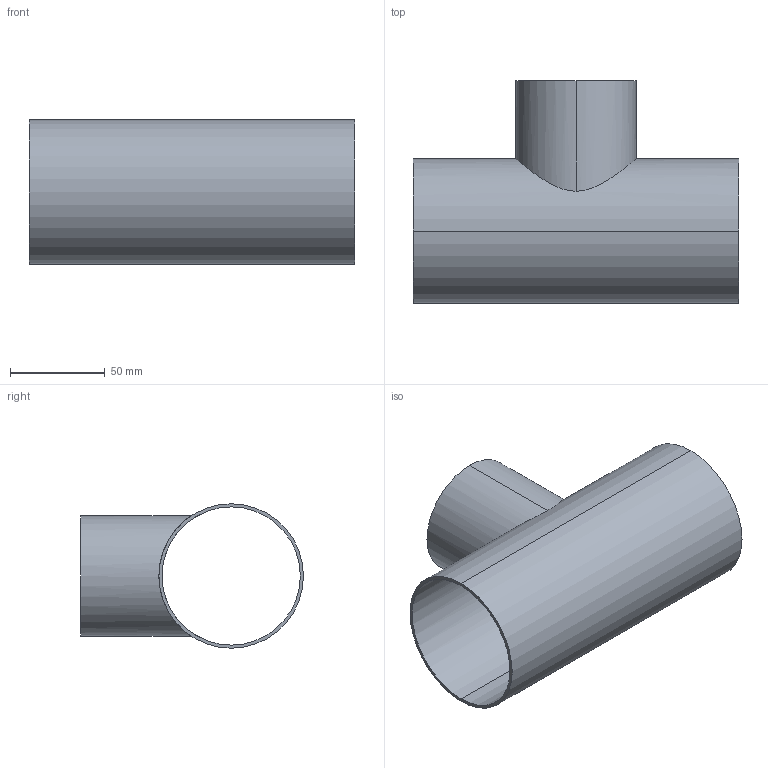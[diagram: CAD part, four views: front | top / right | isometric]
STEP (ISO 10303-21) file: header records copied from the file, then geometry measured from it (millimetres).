
FILE_DESCRIPTION (( 'STEP AP214' ), '1' );
FILE_NAME ('TE7RWWW6L3.0x2.5-...STEP', '2016-05-24T04:27:18', ( 'eran' ), ( '' ), 'SwSTEP 2.0', 'SolidWorks 2016', '' );
FILE_SCHEMA (( 'AUTOMOTIVE_DESIGN' ));
Length unit declared in the file: millimetre
Products named in the file (1): TE7RWWW6L3.0x2.5-..
Bounding box: 171.4 x 117.5 x 76.2 mm (x, y, z)
Volume: 76623.6 mm3; surface area: 93962.9 mm2
Topology: 1 solids, 1 shells, 11 faces, 24 edges, 16 vertices
Faces by surface type: cylinder 8, plane 3
Entity records: 612 total; most frequent: CARTESIAN_POINT 320, DIRECTION 56, ORIENTED_EDGE 48, AXIS2_PLACEMENT_3D 24, EDGE_CURVE 24, EDGE_LOOP 16, VERTEX_POINT 16, CIRCLE 12
